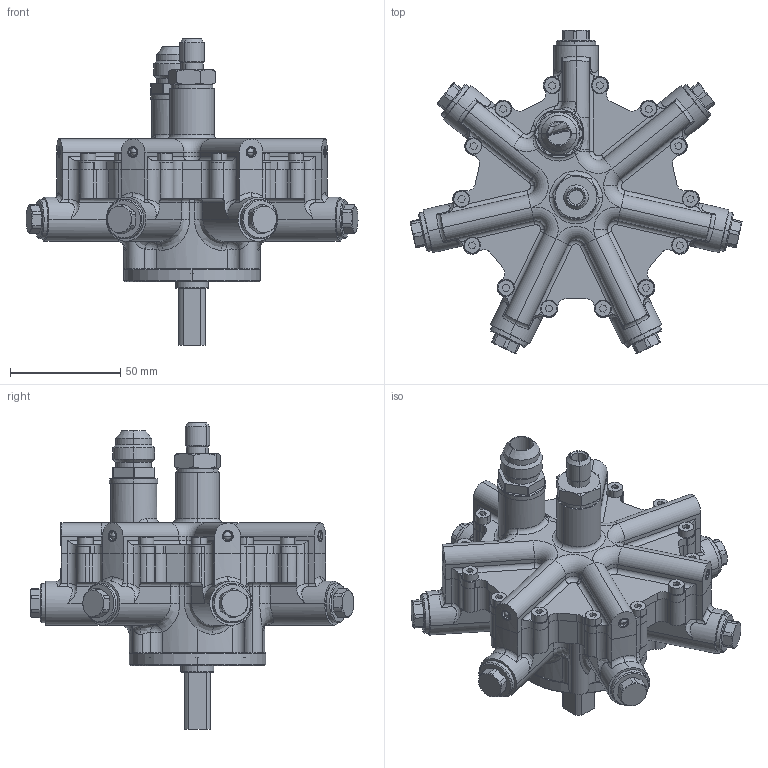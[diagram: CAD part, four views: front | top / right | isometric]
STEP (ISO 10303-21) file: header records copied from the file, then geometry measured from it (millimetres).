
FILE_DESCRIPTION (( 'STEP AP203' ), '1' );
FILE_NAME ('IPR07.STEP', '2018-06-06T14:21:45', ( '' ), ( '' ), 'SwSTEP 2.0', 'SolidWorks 2015', '' );
FILE_SCHEMA (( 'CONFIG_CONTROL_DESIGN' ));
Length unit declared in the file: millimetre
Products named in the file (1): IPR07
Bounding box: 150.85 x 147.07 x 139.25 mm (x, y, z)
Surface area: 70309.5 mm2 (no closed solid volume)
Topology: 0 solids, 47 shells, 1147 faces, 3074 edges, 1979 vertices
Faces by surface type: cylinder 491, plane 398, cone 115, bspline 72, torus 49, sphere 22
Entity records: 44911 total; most frequent: CARTESIAN_POINT 16462, DIRECTION 6074, ORIENTED_EDGE 5705, EDGE_CURVE 3046, AXIS2_PLACEMENT_3D 2350, VERTEX_POINT 1971, LINE 1374, VECTOR 1374
